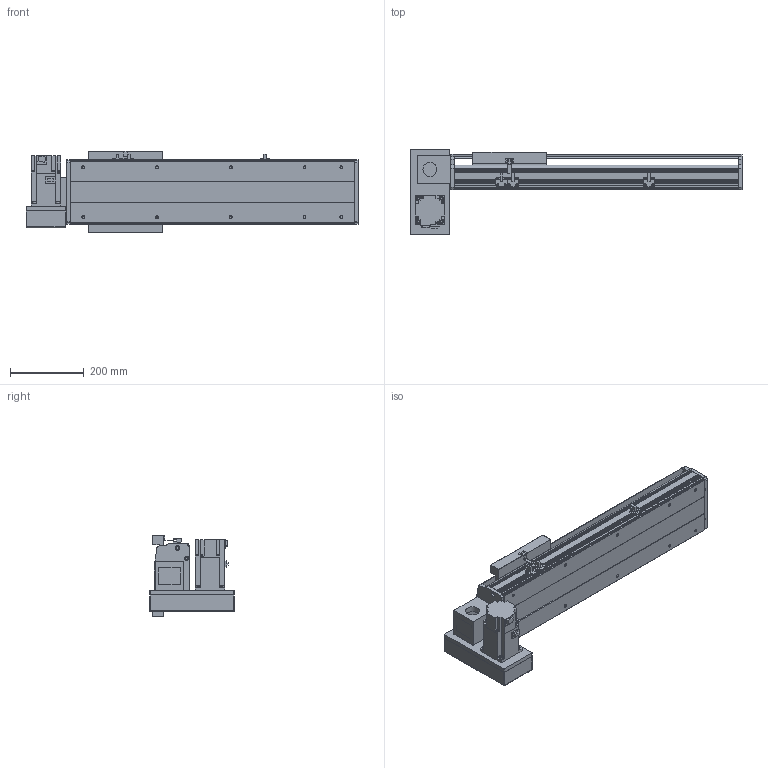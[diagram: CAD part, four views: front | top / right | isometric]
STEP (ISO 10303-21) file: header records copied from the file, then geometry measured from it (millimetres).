
FILE_DESCRIPTION(/* description */ ('STEP AP214'),/* implementation_level */ '2;1');
FILE_NAME(/* name */ 'PBS200-P40-S400-LD-T75-C1-N(0)',/* time_stamp */ '2022-06-11T08:43:25+02:00',/* author */ ('License CC BY-ND 4.0'),/* organization */ ('CADENAS'),/* preprocessor_version */ 'ST-DEVELOPER v18.102',/* originating_system */ 'PARTsolutions',/* authorisation */ ' ');
FILE_SCHEMA (('AUTOMOTIVE_DESIGN {1 0 10303 214 3 1 1}'));
Length unit declared in the file: millimetre
Products named in the file (7): PBS200-P40-S400-LD-T75-C1-N(0); PBS200_sensor; PBS200_plant; PBS200_sliser; T75-p1; PBS200T-LD_motors; PBS200-S400()_body
Assembly tree (8 placements, depth 2):
  PBS200-P40-S400-LD-T75-C1-N(0)
    PBS200_sensor  x3
    PBS200_plant
    PBS200_sliser
    T75-p1
    PBS200T-LD_motors
    PBS200-S400()_body
Bounding box: 900 x 230 x 221 mm (x, y, z)
Volume: 7490481.6 mm3; surface area: 1228915.2 mm2
Topology: 8 solids, 8 shells, 902 faces, 2344 edges, 1530 vertices
Faces by surface type: plane 568, cylinder 292, cone 42
Full cylindrical faces by diameter (mm): 2.459 x6, 3.242 x4, 4.5 x6, 4.917 x4, 5 x6, 6 x7, 6.6 x8, 6.647 x14, 8 x6, 10 x4, 12 x8, 38 x2, 40 x1, 70 x1
Entity records: 24221 total; most frequent: DIRECTION 4255, CARTESIAN_POINT 4138, ORIENTED_EDGE 3946, EDGE_CURVE 1973, AXIS2_PLACEMENT_3D 1471, VERTEX_POINT 1354, LINE 1313, VECTOR 1313
